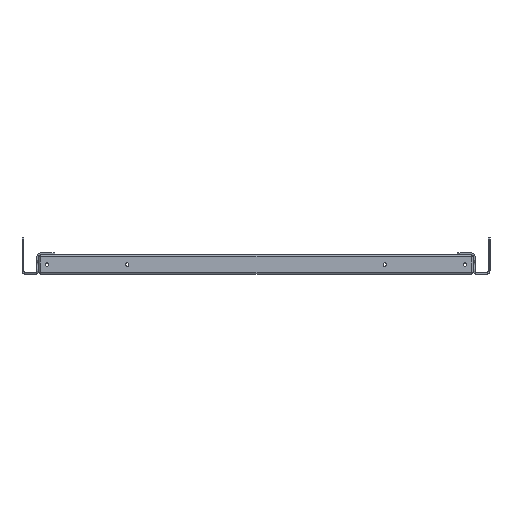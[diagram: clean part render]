
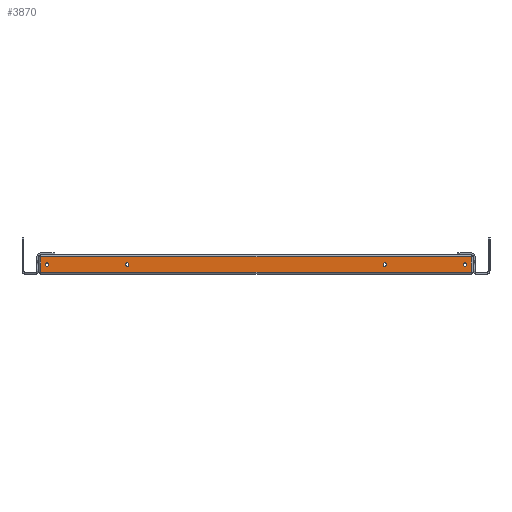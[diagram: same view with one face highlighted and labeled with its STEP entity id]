
A CAD part, front view. The second image highlights one B-rep face of the part: STEP entity #3870.
In plain terms, the highlighted planar face has unit normal (0, -1, 0).
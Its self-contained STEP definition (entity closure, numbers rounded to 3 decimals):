
#754 = DIRECTION ( 'NONE',  ( -1., 0., 0. ) ) ;
#755 = CARTESIAN_POINT ( 'NONE',  ( -225., -275., 18. ) ) ;
#756 = LINE ( 'NONE', #755, #2085 ) ;
#763 = DIRECTION ( 'NONE',  ( 0., 0., 1. ) ) ;
#764 = CARTESIAN_POINT ( 'NONE',  ( 223., -275., 20. ) ) ;
#765 = LINE ( 'NONE', #764, #2093 ) ;
#1163 = DIRECTION ( 'NONE',  ( -1., 0., 0. ) ) ;
#1164 = DIRECTION ( 'NONE',  ( 0., 1., 0. ) ) ;
#1165 = CARTESIAN_POINT ( 'NONE',  ( 133.5, -275., 10. ) ) ;
#1341 = DIRECTION ( 'NONE',  ( -1., 0., 0. ) ) ;
#1342 = DIRECTION ( 'NONE',  ( 0., 1., 0. ) ) ;
#1343 = CARTESIAN_POINT ( 'NONE',  ( 216.5, -275., 10. ) ) ;
#1973 = AXIS2_PLACEMENT_3D ( 'NONE', #5492, #5491, #5490 ) ;
#2085 = VECTOR ( 'NONE', #754, 1000. ) ;
#2093 = VECTOR ( 'NONE', #763, 1000. ) ;
#2296 = AXIS2_PLACEMENT_3D ( 'NONE', #1165, #1164, #1163 ) ;
#2366 = AXIS2_PLACEMENT_3D ( 'NONE', #1343, #1342, #1341 ) ;
#2407 = AXIS2_PLACEMENT_3D ( 'NONE', #5482, #5481, #5480 ) ;
#2940 = VECTOR ( 'NONE', #5614, 1000. ) ;
#2956 = VECTOR ( 'NONE', #5378, 1000. ) ;
#3062 = EDGE_CURVE ( 'NONE', #9611, #9614, #5616, .T. ) ;
#3096 = EDGE_CURVE ( 'NONE', #9749, #9750, #11292, .T. ) ;
#3099 = EDGE_CURVE ( 'NONE', #9741, #9742, #11289, .T. ) ;
#3118 = EDGE_CURVE ( 'NONE', #9612, #9611, #5380, .T. ) ;
#3456 = EDGE_CURVE ( 'NONE', #9725, #9726, #11223, .T. ) ;
#3493 = EDGE_CURVE ( 'NONE', #9733, #9734, #11219, .T. ) ;
#3606 = EDGE_CURVE ( 'NONE', #9614, #9613, #765, .T. ) ;
#3609 = EDGE_CURVE ( 'NONE', #9613, #9612, #756, .T. ) ;
#3870 = ADVANCED_FACE ( 'NONE', ( #11690, #11688, #11686, #11684, #11683 ), #8449, .F. ) ;
#4017 = EDGE_CURVE ( 'NONE', #9750, #9749, #11114, .T. ) ;
#4025 = EDGE_CURVE ( 'NONE', #9742, #9741, #11110, .T. ) ;
#4033 = EDGE_CURVE ( 'NONE', #9734, #9733, #11106, .T. ) ;
#4041 = EDGE_CURVE ( 'NONE', #9726, #9725, #11102, .T. ) ;
#5378 = DIRECTION ( 'NONE',  ( 0., 0., -1. ) ) ;
#5379 = CARTESIAN_POINT ( 'NONE',  ( -223., -275., 20. ) ) ;
#5380 = LINE ( 'NONE', #5379, #2956 ) ;
#5480 = DIRECTION ( 'NONE',  ( -1., 0., 0. ) ) ;
#5481 = DIRECTION ( 'NONE',  ( 0., 1., 0. ) ) ;
#5482 = CARTESIAN_POINT ( 'NONE',  ( -216.5, -275., 10. ) ) ;
#5490 = DIRECTION ( 'NONE',  ( -1., 0., 0. ) ) ;
#5491 = DIRECTION ( 'NONE',  ( 0., 1., 0. ) ) ;
#5492 = CARTESIAN_POINT ( 'NONE',  ( -133.5, -275., 10. ) ) ;
#5614 = DIRECTION ( 'NONE',  ( 1., 0., 0. ) ) ;
#5615 = CARTESIAN_POINT ( 'NONE',  ( 225., -275., 2. ) ) ;
#5616 = LINE ( 'NONE', #5615, #2940 ) ;
#6430 = ORIENTED_EDGE ( 'NONE', *, *, #3099, .T. ) ;
#6431 = ORIENTED_EDGE ( 'NONE', *, *, #3096, .T. ) ;
#6432 = ORIENTED_EDGE ( 'NONE', *, *, #3493, .T. ) ;
#6433 = ORIENTED_EDGE ( 'NONE', *, *, #4017, .T. ) ;
#6434 = ORIENTED_EDGE ( 'NONE', *, *, #3456, .T. ) ;
#6435 = ORIENTED_EDGE ( 'NONE', *, *, #4025, .T. ) ;
#6436 = ORIENTED_EDGE ( 'NONE', *, *, #3606, .T. ) ;
#6437 = ORIENTED_EDGE ( 'NONE', *, *, #4033, .T. ) ;
#6438 = ORIENTED_EDGE ( 'NONE', *, *, #4041, .T. ) ;
#6439 = ORIENTED_EDGE ( 'NONE', *, *, #3118, .T. ) ;
#6440 = ORIENTED_EDGE ( 'NONE', *, *, #3609, .T. ) ;
#6441 = ORIENTED_EDGE ( 'NONE', *, *, #3062, .T. ) ;
#8425 = DIRECTION ( 'NONE',  ( -1., 0., 0. ) ) ;
#8438 = CARTESIAN_POINT ( 'NONE',  ( 225., -275., 20. ) ) ;
#8442 = DIRECTION ( 'NONE',  ( 0., 1., 0. ) ) ;
#8449 = PLANE ( 'NONE',  #11687 ) ;
#9121 = CARTESIAN_POINT ( 'NONE',  ( 216.5, -275., 10. ) ) ;
#9231 = DIRECTION ( 'NONE',  ( 0., 1., 0. ) ) ;
#9247 = CARTESIAN_POINT ( 'NONE',  ( 133.5, -275., 10. ) ) ;
#9278 = CARTESIAN_POINT ( 'NONE',  ( -133.5, -275., 10. ) ) ;
#9324 = DIRECTION ( 'NONE',  ( -1., 0., 0. ) ) ;
#9334 = DIRECTION ( 'NONE',  ( 0., 1., 0. ) ) ;
#9346 = DIRECTION ( 'NONE',  ( -1., 0., 0. ) ) ;
#9399 = DIRECTION ( 'NONE',  ( 0., 1., 0. ) ) ;
#9405 = DIRECTION ( 'NONE',  ( -1., 0., 0. ) ) ;
#9439 = DIRECTION ( 'NONE',  ( 0., 1., 0. ) ) ;
#9451 = CARTESIAN_POINT ( 'NONE',  ( -216.5, -275., 10. ) ) ;
#9480 = DIRECTION ( 'NONE',  ( -1., 0., 0. ) ) ;
#9611 = VERTEX_POINT ( 'NONE', #12523 ) ;
#9612 = VERTEX_POINT ( 'NONE', #12524 ) ;
#9613 = VERTEX_POINT ( 'NONE', #12525 ) ;
#9614 = VERTEX_POINT ( 'NONE', #12526 ) ;
#9725 = VERTEX_POINT ( 'NONE', #12637 ) ;
#9726 = VERTEX_POINT ( 'NONE', #12638 ) ;
#9733 = VERTEX_POINT ( 'NONE', #12645 ) ;
#9734 = VERTEX_POINT ( 'NONE', #12646 ) ;
#9741 = VERTEX_POINT ( 'NONE', #12653 ) ;
#9742 = VERTEX_POINT ( 'NONE', #12654 ) ;
#9749 = VERTEX_POINT ( 'NONE', #12661 ) ;
#9750 = VERTEX_POINT ( 'NONE', #12662 ) ;
#10532 = EDGE_LOOP ( 'NONE', ( #6431, #6433 ) ) ;
#10533 = EDGE_LOOP ( 'NONE', ( #6430, #6435 ) ) ;
#10534 = EDGE_LOOP ( 'NONE', ( #6432, #6437 ) ) ;
#10535 = EDGE_LOOP ( 'NONE', ( #6434, #6438 ) ) ;
#10536 = EDGE_LOOP ( 'NONE', ( #6436, #6440, #6439, #6441 ) ) ;
#11102 = CIRCLE ( 'NONE', #11332, 1.8 ) ;
#11106 = CIRCLE ( 'NONE', #11340, 1.8 ) ;
#11110 = CIRCLE ( 'NONE', #11351, 1.8 ) ;
#11114 = CIRCLE ( 'NONE', #11361, 1.8 ) ;
#11219 = CIRCLE ( 'NONE', #2296, 1.8 ) ;
#11223 = CIRCLE ( 'NONE', #2366, 1.8 ) ;
#11289 = CIRCLE ( 'NONE', #2407, 1.8 ) ;
#11292 = CIRCLE ( 'NONE', #1973, 1.8 ) ;
#11332 = AXIS2_PLACEMENT_3D ( 'NONE', #9121, #9231, #9480 ) ;
#11340 = AXIS2_PLACEMENT_3D ( 'NONE', #9247, #9399, #9405 ) ;
#11351 = AXIS2_PLACEMENT_3D ( 'NONE', #9451, #9439, #9346 ) ;
#11361 = AXIS2_PLACEMENT_3D ( 'NONE', #9278, #9334, #9324 ) ;
#11683 = FACE_OUTER_BOUND ( 'NONE', #10536, .T. ) ;
#11684 = FACE_BOUND ( 'NONE', #10535, .T. ) ;
#11686 = FACE_BOUND ( 'NONE', #10534, .T. ) ;
#11687 = AXIS2_PLACEMENT_3D ( 'NONE', #8438, #8442, #8425 ) ;
#11688 = FACE_BOUND ( 'NONE', #10533, .T. ) ;
#11690 = FACE_BOUND ( 'NONE', #10532, .T. ) ;
#12523 = CARTESIAN_POINT ( 'NONE',  ( -223., -275., 2. ) ) ;
#12524 = CARTESIAN_POINT ( 'NONE',  ( -223., -275., 18. ) ) ;
#12525 = CARTESIAN_POINT ( 'NONE',  ( 223., -275., 18. ) ) ;
#12526 = CARTESIAN_POINT ( 'NONE',  ( 223., -275., 2. ) ) ;
#12637 = CARTESIAN_POINT ( 'NONE',  ( 214.7, -275., 10. ) ) ;
#12638 = CARTESIAN_POINT ( 'NONE',  ( 218.3, -275., 10. ) ) ;
#12645 = CARTESIAN_POINT ( 'NONE',  ( 131.7, -275., 10. ) ) ;
#12646 = CARTESIAN_POINT ( 'NONE',  ( 135.3, -275., 10. ) ) ;
#12653 = CARTESIAN_POINT ( 'NONE',  ( -218.3, -275., 10. ) ) ;
#12654 = CARTESIAN_POINT ( 'NONE',  ( -214.7, -275., 10. ) ) ;
#12661 = CARTESIAN_POINT ( 'NONE',  ( -135.3, -275., 10. ) ) ;
#12662 = CARTESIAN_POINT ( 'NONE',  ( -131.7, -275., 10. ) ) ;
